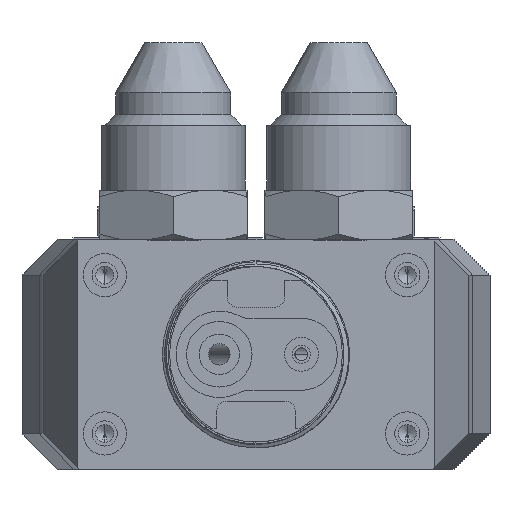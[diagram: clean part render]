
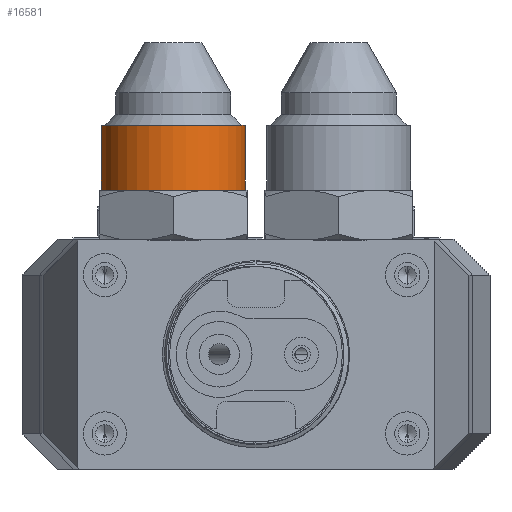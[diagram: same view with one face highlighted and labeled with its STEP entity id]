
A CAD part, front view. The second image highlights one B-rep face of the part: STEP entity #16581.
In plain terms, the highlighted cylindrical face has radius 10 mm (diameter 20 mm), a partial arc.
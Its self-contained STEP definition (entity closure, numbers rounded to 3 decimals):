
#899 = CARTESIAN_POINT ( 'NONE',  ( -107.429, -135.418, 1021.303 ) ) ;
#4916 = DIRECTION ( 'NONE',  ( 0., 0., 1. ) ) ;
#4947 = CYLINDRICAL_SURFACE ( 'NONE', #26581, 10. ) ;
#8037 = EDGE_LOOP ( 'NONE', ( #30861, #52880, #31663, #34925 ) ) ;
#8795 = DIRECTION ( 'NONE',  ( 0., 0., -1. ) ) ;
#8998 = VERTEX_POINT ( 'NONE', #56851 ) ;
#12121 = DIRECTION ( 'NONE',  ( 0., 0., 1. ) ) ;
#12571 = CIRCLE ( 'NONE', #52218, 10. ) ;
#15672 = EDGE_CURVE ( 'NONE', #32370, #17800, #48012, .T. ) ;
#15895 = CIRCLE ( 'NONE', #32354, 10. ) ;
#16581 = ADVANCED_FACE ( 'NONE', ( #50357 ), #4947, .T. ) ;
#17800 = VERTEX_POINT ( 'NONE', #32273 ) ;
#18587 = DIRECTION ( 'NONE',  ( 1., 0., 0. ) ) ;
#25022 = CARTESIAN_POINT ( 'NONE',  ( -87.429, -135.418, 1052.575 ) ) ;
#26581 = AXIS2_PLACEMENT_3D ( 'NONE', #27357, #59444, #18587 ) ;
#27357 = CARTESIAN_POINT ( 'NONE',  ( -97.429, -135.418, 1052.575 ) ) ;
#27927 = LINE ( 'NONE', #46382, #43029 ) ;
#28014 = VERTEX_POINT ( 'NONE', #899 ) ;
#30861 = ORIENTED_EDGE ( 'NONE', *, *, #54411, .F. ) ;
#31663 = ORIENTED_EDGE ( 'NONE', *, *, #15672, .T. ) ;
#32273 = CARTESIAN_POINT ( 'NONE',  ( -87.429, -135.418, 1030.303 ) ) ;
#32354 = AXIS2_PLACEMENT_3D ( 'NONE', #59342, #12121, #54506 ) ;
#32370 = VERTEX_POINT ( 'NONE', #49113 ) ;
#33996 = EDGE_CURVE ( 'NONE', #28014, #32370, #15895, .T. ) ;
#34925 = ORIENTED_EDGE ( 'NONE', *, *, #43689, .T. ) ;
#41178 = DIRECTION ( 'NONE',  ( 1., 0., 0. ) ) ;
#43029 = VECTOR ( 'NONE', #4916, 1000. ) ;
#43462 = DIRECTION ( 'NONE',  ( 0., 0., 1. ) ) ;
#43689 = EDGE_CURVE ( 'NONE', #17800, #8998, #12571, .T. ) ;
#45418 = CARTESIAN_POINT ( 'NONE',  ( -97.429, -135.418, 1030.303 ) ) ;
#46382 = CARTESIAN_POINT ( 'NONE',  ( -107.429, -135.418, 1052.575 ) ) ;
#48012 = LINE ( 'NONE', #25022, #54686 ) ;
#49113 = CARTESIAN_POINT ( 'NONE',  ( -87.429, -135.418, 1021.303 ) ) ;
#50357 = FACE_OUTER_BOUND ( 'NONE', #8037, .T. ) ;
#52218 = AXIS2_PLACEMENT_3D ( 'NONE', #45418, #8795, #41178 ) ;
#52880 = ORIENTED_EDGE ( 'NONE', *, *, #33996, .T. ) ;
#54411 = EDGE_CURVE ( 'NONE', #28014, #8998, #27927, .T. ) ;
#54506 = DIRECTION ( 'NONE',  ( 1., 0., 0. ) ) ;
#54686 = VECTOR ( 'NONE', #43462, 1000. ) ;
#56851 = CARTESIAN_POINT ( 'NONE',  ( -107.429, -135.418, 1030.303 ) ) ;
#59342 = CARTESIAN_POINT ( 'NONE',  ( -97.429, -135.418, 1021.303 ) ) ;
#59444 = DIRECTION ( 'NONE',  ( 0., 0., 1. ) ) ;
